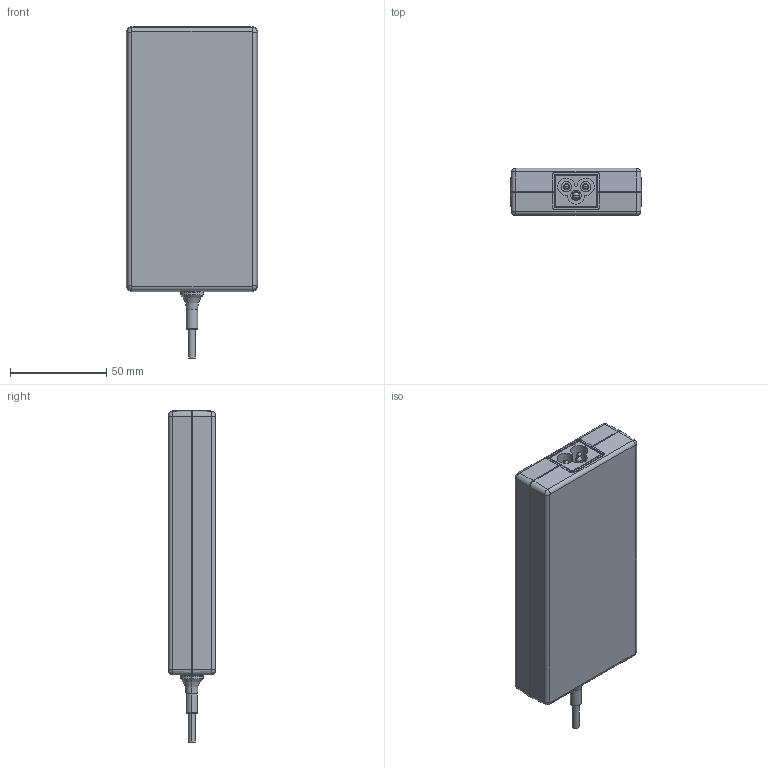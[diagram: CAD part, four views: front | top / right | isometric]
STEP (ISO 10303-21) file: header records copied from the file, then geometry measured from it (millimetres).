
FILE_DESCRIPTION((''),'2;1');
FILE_NAME('ADT-120A24AA_F-A-ASSY_ASM_ASM','2020-01-21T',('CAREY.WENG'),(''),'CREO PARAMETRIC BY PTC INC, 2014190','CREO PARAMETRIC BY PTC INC, 2014190','');
FILE_SCHEMA(('CONFIG_CONTROL_DESIGN'));
Length unit declared in the file: millimetre
Products named in the file (8): 3306562100_1; 3306562000_1; ASUS120W_ASM_153_ASM_1_ASM; 120W-SHIELD-ASSY_ASM_1_ASM; SR-CABLE_1; C6_SOCKET_1; ADP-120W-DELTA-ASSY_ASM_1_ASM; ADT-120A24AA_F-A-ASSY_ASM_ASM
Assembly tree (7 placements, depth 4):
  ADT-120A24AA_F-A-ASSY_ASM_ASM
    ADP-120W-DELTA-ASSY_ASM_1_ASM
      3306562100_1
      3306562000_1
      120W-SHIELD-ASSY_ASM_1_ASM
        ASUS120W_ASM_153_ASM_1_ASM
      SR-CABLE_1
      C6_SOCKET_1
Bounding box: 68.5 x 24.5 x 172.91 mm (x, y, z)
Volume: 58835.9 mm3; surface area: 62753 mm2
Topology: 4 solids, 6 shells, 819 faces, 2111 edges, 1345 vertices
Faces by surface type: plane 532, cylinder 182, cone 33, torus 30, bspline 26, sphere 14, revolution 2
Entity records: 34009 total; most frequent: CARTESIAN_POINT 14044, ORIENTED_EDGE 4186, DIRECTION 3936, EDGE_CURVE 2097, VECTOR 1540, LINE 1540, VERTEX_POINT 1345, AXIS2_PLACEMENT_3D 1197
